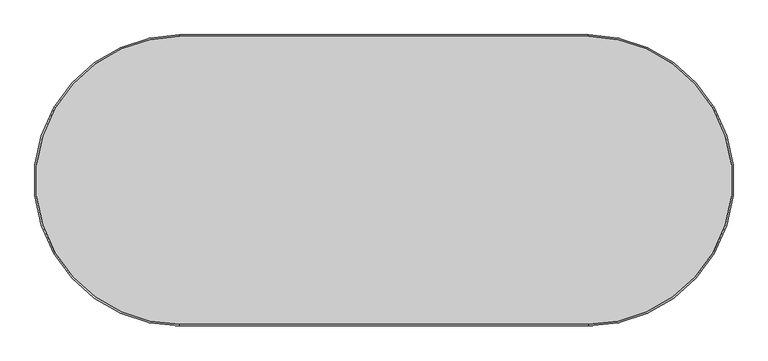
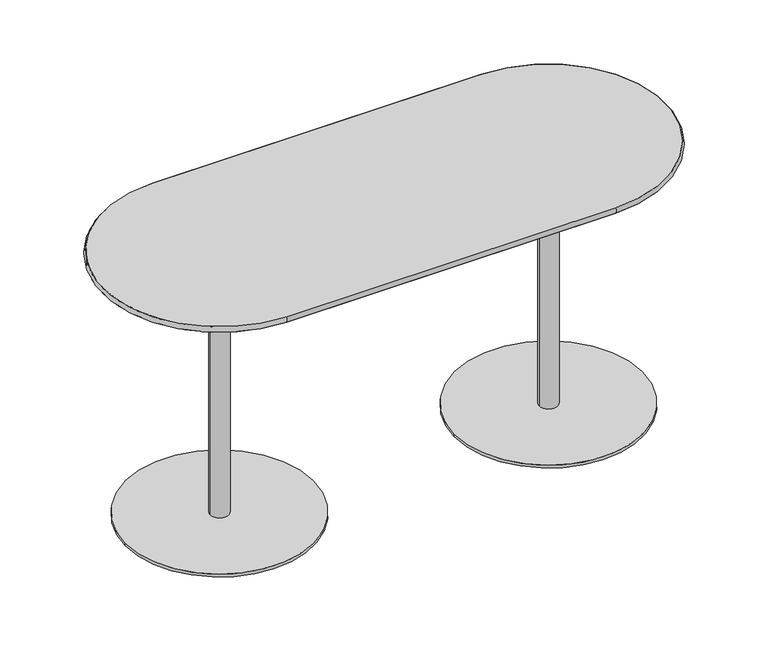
"""IFC4 building model written with IfcOpenShell, lengths in millimetres: furniture geometry, Steelcase Coalesse - Enea - Table - Double Base : Racetrack - 36H - Laminate."""

from ifc_helpers import new_model, si_unit, point, frame, frame_2d, origin, origin_with_axes, place, context, project, spatial, polyline, circle_curve, ellipse_curve, trimmed, segment, composite_curve, outline, extrude, source, transform, mapped, element, save
from ifc_brep_helpers import plane_surface, cylinder_surface, revolved_surface, advanced_brep


def furniture_13393bcb(model_context):
    return source(origin(), model_context, "Body", "SolidModel", [
        advanced_brep(
        [(-828.9851448, -914.5459525, 895.35), (-828.9851448, -914.5459525, 914.4), (237.7880276, -914.5459525, 914.4), (237.7880276, -914.5459525, 895.35), (237.7880276, -160.8897715, 895.35), (237.7880276, -160.8897715, 914.4), (-828.9851448, -160.8897715, 914.4), (-828.9851448, -160.8897715, 895.35)],
        [
            (0, 1),
            (1, 2),
            (2, 3),
            (3, 0),
            (1, 0, circle_curve(frame((-828.9851448, -905.1264226, 904.875), z_axis=(1.0, 0.0, 0.0), x_axis=(0.0, 1.0, 0.0)), 13.3960131)),
            (3, 2, circle_curve(frame((237.7880276, -905.1264226, 904.875), z_axis=(-1.0, 0.0, 0.0), x_axis=(0.0, 1.0, 0.0)), 13.3960131)),
            (4, 3, circle_curve(frame((237.7880276, -537.717862, 895.35), z_axis=(0.0, 0.0, -1.0), x_axis=(0.0, -1.0, 0.0)), 376.8280905)),
            (2, 5, circle_curve(frame((237.7880276, -537.717862, 914.4), z_axis=(0.0, 0.0, 1.0), x_axis=(0.0, -1.0, 0.0)), 376.8280905)),
            (5, 4),
            (4, 5, circle_curve(frame((237.7880276, -170.3093013, 904.875), z_axis=(1.0, 0.0, 0.0), x_axis=(0.0, -1.0, 0.0)), 13.3960131)),
            (5, 6),
            (6, 7),
            (7, 4),
            (7, 6, circle_curve(frame((-828.9851448, -170.3093013, 904.875), z_axis=(1.0, 0.0, 0.0), x_axis=(0.0, -1.0, 0.0)), 13.3960131)),
            (0, 7, circle_curve(frame((-828.9851448, -537.717862, 895.35), z_axis=(0.0, 0.0, -1.0), x_axis=(0.0, 1.0, 0.0)), 376.8280905)),
            (6, 1, circle_curve(frame((-828.9851448, -537.717862, 914.4), z_axis=(0.0, 0.0, 1.0), x_axis=(0.0, 1.0, 0.0)), 376.8280905)),
        ],
        [
            plane_surface(frame((-828.9851448, -914.5459525, 914.4), z_axis=(0.0, 1.0, 0.0), x_axis=(1.0, 0.0, 0.0))),
            cylinder_surface(frame((-828.9851448, -905.1264226, 904.875), z_axis=(-1.0, 0.0, 0.0), x_axis=(0.0, 1.0, 0.0)), 13.3960131),
            revolved_surface(polyline([(237.7880276, -914.5459524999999, 914.4), (237.7880276, -914.5459524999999, 895.35)]), (237.7880276, -537.717862, 0.0), (0.0, 0.0, 1.0)),
            revolved_surface(trimmed(ellipse_curve(frame((237.7880276, -905.1264226, 904.875), z_axis=(-1.0, 0.0, 0.0), x_axis=(0.0, 1.0, 0.0)), 13.3960131, 13.3960131), [point((237.7880276, -914.5459525, 895.35))], [point((237.7880276, -914.5459525, 914.4))], True, "CARTESIAN"), (237.7880276, -537.717862, 0.0), (0.0, 0.0, 1.0)),
            plane_surface(frame((237.7880276, -160.8897715, 914.4), z_axis=(0.0, -1.0, 0.0), x_axis=(-1.0, 0.0, 0.0))),
            cylinder_surface(frame((237.7880276, -170.3093013, 904.875), z_axis=(1.0, 0.0, 0.0), x_axis=(0.0, -1.0, 0.0)), 13.3960131),
            revolved_surface(polyline([(-828.9851448, -160.8897715, 914.4), (-828.9851448, -160.8897715, 895.35)]), (-828.9851448, -537.717862, 0.0), (0.0, 0.0, 1.0)),
            revolved_surface(trimmed(ellipse_curve(frame((-828.9851448, -170.3093013, 904.875), z_axis=(1.0, 0.0, 0.0), x_axis=(0.0, -1.0, 0.0)), 13.3960131, 13.3960131), [point((-828.9851448, -160.8897715, 895.35))], [point((-828.9851448, -160.8897715, 914.4))], True, "CARTESIAN"), (-828.9851448, -537.717862, 0.0), (0.0, 0.0, 1.0)),
        ],
        [
            (0, [[1, 2, 3, 4]]),
            (1, [[5, -4, 6, -2]]),
            (2, [[7, -3, 8, 9]]),
            (3, [[-8, -6, -7, 10]]),
            (4, [[-9, 11, 12, 13]]),
            (5, [[-10, -13, 14, -11]]),
            (6, [[15, -12, 16, -1]]),
            (7, [[-16, -14, -15, -5]]),
        ],
    ),
        extrude(outline(composite_curve([segment(trimmed(circle_curve(frame_2d((237.7880276, -537.717862)), 376.7002625), [point((237.7880276, -161.0175995))], [point((237.7880276, -914.4181244))], False, "CARTESIAN"), True, "CONTINUOUS"), segment(polyline([(237.7880276, -914.4181244), (-828.9851448, -914.4181244)]), True, "CONTINUOUS"), segment(trimmed(circle_curve(frame_2d((-828.9851448, -537.717862)), 376.7002625), [point((-828.9851448, -914.4181244))], [point((-828.9851448, -161.0175995))], False, "CARTESIAN"), True, "CONTINUOUS"), segment(polyline([(-828.9851448, -161.0175995), (237.7880276, -161.0175995)]), True, "CONTINUOUS")], self_intersect=False)), frame((0.0, 0.0, 895.35), z_axis=(0.0, 0.0, 1.0), x_axis=(1.0, 0.0, 0.0)), (0.0, 0.0, 1.0), 19.05),
        extrude(outline(composite_curve([segment(trimmed(circle_curve(frame_2d((-829.113029, -284.0746893)), 25.4), [point((-803.713029, -284.0746893))], [point((-854.513029, -284.0746893))], False, "CARTESIAN"), True, "CONTINUOUS"), segment(trimmed(circle_curve(frame_2d((-829.113029, -284.0746893)), 25.4), [point((-854.513029, -284.0746893))], [point((-803.713029, -284.0746893))], False, "CARTESIAN"), True, "CONTINUOUS")], self_intersect=False)), origin_with_axes(), (0.0, 0.0, 1.0), 6.35),
        extrude(outline(composite_curve([segment(trimmed(circle_curve(frame_2d((-1082.7563397, -537.3772238)), 25.4), [point((-1057.3563397, -537.3772238))], [point((-1108.1563397, -537.3772238))], False, "CARTESIAN"), True, "CONTINUOUS"), segment(trimmed(circle_curve(frame_2d((-1082.7563397, -537.3772238)), 25.4), [point((-1108.1563397, -537.3772238))], [point((-1057.3563397, -537.3772238))], False, "CARTESIAN"), True, "CONTINUOUS")], self_intersect=False)), origin_with_axes(), (0.0, 0.0, 1.0), 6.35),
        extrude(outline(composite_curve([segment(trimmed(circle_curve(frame_2d((-575.4697182, -537.3772238)), 25.4), [point((-550.0697182, -537.3772238))], [point((-600.8697182, -537.3772238))], False, "CARTESIAN"), True, "CONTINUOUS"), segment(trimmed(circle_curve(frame_2d((-575.4697182, -537.3772238)), 25.4), [point((-600.8697182, -537.3772238))], [point((-550.0697182, -537.3772238))], False, "CARTESIAN"), True, "CONTINUOUS")], self_intersect=False)), origin_with_axes(), (0.0, 0.0, 1.0), 6.35),
        extrude(outline(composite_curve([segment(trimmed(circle_curve(frame_2d((-829.113029, -790.6797584)), 25.4), [point((-803.713029, -790.6797584))], [point((-854.513029, -790.6797584))], False, "CARTESIAN"), True, "CONTINUOUS"), segment(trimmed(circle_curve(frame_2d((-829.113029, -790.6797584)), 25.4), [point((-854.513029, -790.6797584))], [point((-803.713029, -790.6797584))], False, "CARTESIAN"), True, "CONTINUOUS")], self_intersect=False)), origin_with_axes(), (0.0, 0.0, 1.0), 6.35),
        extrude(outline(composite_curve([segment(trimmed(circle_curve(frame_2d((-829.113029, -537.718)), 304.8), [point((-1133.913029, -537.718))], [point((-524.313029, -537.718))], False, "CARTESIAN"), True, "CONTINUOUS"), segment(trimmed(circle_curve(frame_2d((-829.113029, -537.718)), 304.8), [point((-524.313029, -537.718))], [point((-1133.913029, -537.718))], False, "CARTESIAN"), True, "CONTINUOUS")], self_intersect=False)), frame((0.0, 0.0, 6.35), z_axis=(0.0, 0.0, 1.0), x_axis=(1.0, 0.0, 0.0)), (0.0, 0.0, 1.0), 9.525),
        extrude(outline(composite_curve([segment(trimmed(circle_curve(frame_2d((-829.1133197, -537.7179273)), 30.0214725), [point((-859.1347922, -537.7179273))], [point((-799.0918471, -537.7179273))], False, "CARTESIAN"), True, "CONTINUOUS"), segment(trimmed(circle_curve(frame_2d((-829.1133197, -537.7179273)), 30.0214725), [point((-799.0918471, -537.7179273))], [point((-859.1347922, -537.7179273))], False, "CARTESIAN"), True, "CONTINUOUS")], self_intersect=False)), frame((0.0, 0.0, 15.875), z_axis=(0.0, 0.0, 1.0), x_axis=(1.0, 0.0, 0.0)), (0.0, 0.0, 1.0), 879.475),
        extrude(outline(composite_curve([segment(trimmed(circle_curve(frame_2d((237.686971, -284.0746893)), 25.4), [point((212.286971, -284.0746893))], [point((263.086971, -284.0746893))], False, "CARTESIAN"), True, "CONTINUOUS"), segment(trimmed(circle_curve(frame_2d((237.686971, -284.0746893)), 25.4), [point((263.086971, -284.0746893))], [point((212.286971, -284.0746893))], False, "CARTESIAN"), True, "CONTINUOUS")], self_intersect=False)), origin_with_axes(), (0.0, 0.0, 1.0), 6.35),
        extrude(outline(composite_curve([segment(trimmed(circle_curve(frame_2d((491.3302818, -537.3772238)), 25.4), [point((465.9302818, -537.3772238))], [point((516.7302818, -537.3772238))], False, "CARTESIAN"), True, "CONTINUOUS"), segment(trimmed(circle_curve(frame_2d((491.3302818, -537.3772238)), 25.4), [point((516.7302818, -537.3772238))], [point((465.9302818, -537.3772238))], False, "CARTESIAN"), True, "CONTINUOUS")], self_intersect=False)), origin_with_axes(), (0.0, 0.0, 1.0), 6.35),
        extrude(outline(composite_curve([segment(trimmed(circle_curve(frame_2d((-15.9563397, -537.3772238)), 25.4), [point((-41.3563397, -537.3772238))], [point((9.4436603, -537.3772238))], False, "CARTESIAN"), True, "CONTINUOUS"), segment(trimmed(circle_curve(frame_2d((-15.9563397, -537.3772238)), 25.4), [point((9.4436603, -537.3772238))], [point((-41.3563397, -537.3772238))], False, "CARTESIAN"), True, "CONTINUOUS")], self_intersect=False)), origin_with_axes(), (0.0, 0.0, 1.0), 6.35),
        extrude(outline(composite_curve([segment(trimmed(circle_curve(frame_2d((237.686971, -790.6797584)), 25.4), [point((212.286971, -790.6797584))], [point((263.086971, -790.6797584))], False, "CARTESIAN"), True, "CONTINUOUS"), segment(trimmed(circle_curve(frame_2d((237.686971, -790.6797584)), 25.4), [point((263.086971, -790.6797584))], [point((212.286971, -790.6797584))], False, "CARTESIAN"), True, "CONTINUOUS")], self_intersect=False)), origin_with_axes(), (0.0, 0.0, 1.0), 6.35),
        extrude(outline(composite_curve([segment(trimmed(circle_curve(frame_2d((237.686971, -537.718)), 304.8), [point((542.486971, -537.718))], [point((-67.113029, -537.718))], False, "CARTESIAN"), True, "CONTINUOUS"), segment(trimmed(circle_curve(frame_2d((237.686971, -537.718)), 304.8), [point((-67.113029, -537.718))], [point((542.486971, -537.718))], False, "CARTESIAN"), True, "CONTINUOUS")], self_intersect=False)), frame((0.0, 0.0, 6.35), z_axis=(0.0, 0.0, 1.0), x_axis=(1.0, 0.0, 0.0)), (0.0, 0.0, 1.0), 9.525),
        extrude(outline(composite_curve([segment(trimmed(circle_curve(frame_2d((237.6872617, -537.7179273)), 30.0214725), [point((267.7087342, -537.7179273))], [point((207.6657892, -537.7179273))], False, "CARTESIAN"), True, "CONTINUOUS"), segment(trimmed(circle_curve(frame_2d((237.6872617, -537.7179273)), 30.0214725), [point((207.6657892, -537.7179273))], [point((267.7087342, -537.7179273))], False, "CARTESIAN"), True, "CONTINUOUS")], self_intersect=False)), frame((0.0, 0.0, 15.875), z_axis=(0.0, 0.0, 1.0), x_axis=(1.0, 0.0, 0.0)), (0.0, 0.0, 1.0), 879.475),
    ])


if __name__ == "__main__":
    model = new_model("IFC4")
    model_context = context("Model", 3, world=origin())
    ifc_project = project(units=[si_unit("LENGTHUNIT", "METRE", prefix="MILLI")], contexts=[model_context])
    site = spatial("IfcSite", under=ifc_project)
    building = spatial("IfcBuilding", under=site)
    placement = place(None, origin())
    furniture_shape = furniture_13393bcb(model_context)
    element("IfcFurniture", 1, ObjectType="Steelcase Coalesse - Enea - Table - Double Base : Racetrack - 36H - Laminate", at=placement, inside=building, context=model_context, shape_type="MappedRepresentation", body=[
        mapped(furniture_shape, transform((0.0, 0.0, 0.0), x_axis=(1.0, 0.0, 0.0), y_axis=(0.0, 1.0, 0.0), z_axis=(0.0, 0.0, 1.0))),
    ])
    save(model, "model.ifc")
